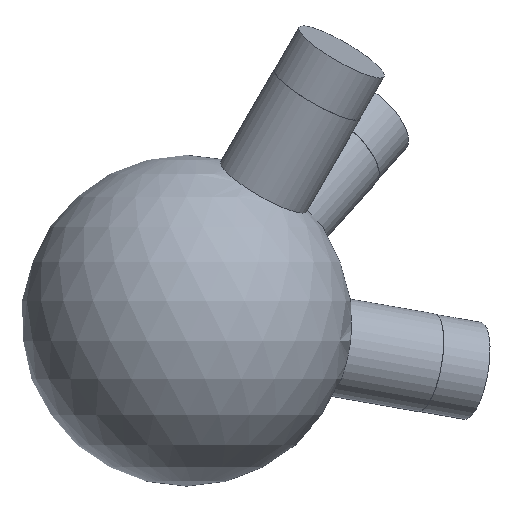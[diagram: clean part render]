
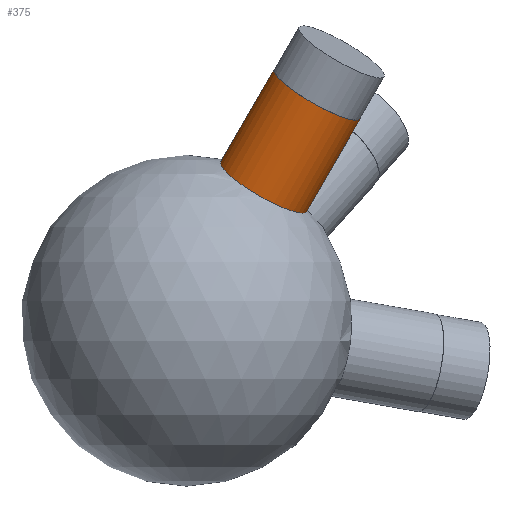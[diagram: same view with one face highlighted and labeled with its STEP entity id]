
A CAD part, left-side view. The second image highlights one B-rep face of the part: STEP entity #375.
In plain terms, the highlighted cylindrical face has radius 6 mm (diameter 12 mm), a full revolution.
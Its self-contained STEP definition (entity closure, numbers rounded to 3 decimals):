
#35 = SPHERICAL_SURFACE('',#36,20.);
#36 = AXIS2_PLACEMENT_3D('',#37,#38,#39);
#37 = CARTESIAN_POINT('',(0.,0.,0.));
#38 = DIRECTION('',(0.,0.,1.));
#39 = DIRECTION('',(1.,0.,-0.));
#116 = EDGE_CURVE('',#117,#117,#119,.T.);
#117 = VERTEX_POINT('',#118);
#118 = CARTESIAN_POINT('',(-3.858,-4.149,
    19.181));
#119 = SURFACE_CURVE('',#120,(#125,#215),.PCURVE_S1.);
#120 = CIRCLE('',#121,6.);
#121 = AXIS2_PLACEMENT_3D('',#122,#123,#124);
#122 = CARTESIAN_POINT('',(-3.858,-9.344,
    16.18));
#123 = DIRECTION('',(-0.202,-0.49,0.848));
#124 = DIRECTION('',(0.,-0.866,-0.5)
  );
#125 = PCURVE('',#35,#126);
#126 = DEFINITIONAL_REPRESENTATION('',(#127),#214);
#127 = B_SPLINE_CURVE_WITH_KNOTS('',8,(#128,#129,#130,#131,#132,#133,
    #134,#135,#136,#137,#138,#139,#140,#141,#142,#143,#144,#145,#146,
    #147,#148,#149,#150,#151,#152,#153,#154,#155,#156,#157,#158,#159,
    #160,#161,#162,#163,#164,#165,#166,#167,#168,#169,#170,#171,#172,
    #173,#174,#175,#176,#177,#178,#179,#180,#181,#182,#183,#184,#185,
    #186,#187,#188,#189,#190,#191,#192,#193,#194,#195,#196,#197,#198,
    #199,#200,#201,#202,#203,#204,#205,#206,#207,#208,#209,#210,#211,
    #212,#213),.UNSPECIFIED.,.F.,.F.,(9,7,7,7,7,7,7,7,7,7,7,7,9),(
    3.142,3.534,3.902,4.593,
    5.801,6.707,7.386,7.896,
    8.278,8.565,8.78,9.102,
    9.425),.UNSPECIFIED.);
#128 = CARTESIAN_POINT('',(3.963,1.284));
#129 = CARTESIAN_POINT('',(3.922,1.275));
#130 = CARTESIAN_POINT('',(3.886,1.264));
#131 = CARTESIAN_POINT('',(3.855,1.253));
#132 = CARTESIAN_POINT('',(3.827,1.241));
#133 = CARTESIAN_POINT('',(3.805,1.228));
#134 = CARTESIAN_POINT('',(3.785,1.215));
#135 = CARTESIAN_POINT('',(3.769,1.202));
#136 = CARTESIAN_POINT('',(3.744,1.175));
#137 = CARTESIAN_POINT('',(3.735,1.161));
#138 = CARTESIAN_POINT('',(3.728,1.148));
#139 = CARTESIAN_POINT('',(3.723,1.134));
#140 = CARTESIAN_POINT('',(3.72,1.12));
#141 = CARTESIAN_POINT('',(3.718,1.107));
#142 = CARTESIAN_POINT('',(3.718,1.093));
#143 = CARTESIAN_POINT('',(3.723,1.053));
#144 = CARTESIAN_POINT('',(3.73,1.027));
#145 = CARTESIAN_POINT('',(3.742,1.002));
#146 = CARTESIAN_POINT('',(3.757,0.977));
#147 = CARTESIAN_POINT('',(3.774,0.953));
#148 = CARTESIAN_POINT('',(3.794,0.93));
#149 = CARTESIAN_POINT('',(3.816,0.908));
#150 = CARTESIAN_POINT('',(3.88,0.849));
#151 = CARTESIAN_POINT('',(3.927,0.816));
#152 = CARTESIAN_POINT('',(3.977,0.786));
#153 = CARTESIAN_POINT('',(4.031,0.76));
#154 = CARTESIAN_POINT('',(4.087,0.74));
#155 = CARTESIAN_POINT('',(4.145,0.724));
#156 = CARTESIAN_POINT('',(4.204,0.714));
#157 = CARTESIAN_POINT('',(4.308,0.706));
#158 = CARTESIAN_POINT('',(4.353,0.706));
#159 = CARTESIAN_POINT('',(4.398,0.709));
#160 = CARTESIAN_POINT('',(4.442,0.714));
#161 = CARTESIAN_POINT('',(4.486,0.723));
#162 = CARTESIAN_POINT('',(4.529,0.735));
#163 = CARTESIAN_POINT('',(4.571,0.75));
#164 = CARTESIAN_POINT('',(4.643,0.78));
#165 = CARTESIAN_POINT('',(4.672,0.794));
#166 = CARTESIAN_POINT('',(4.701,0.81));
#167 = CARTESIAN_POINT('',(4.729,0.827));
#168 = CARTESIAN_POINT('',(4.755,0.846));
#169 = CARTESIAN_POINT('',(4.78,0.865));
#170 = CARTESIAN_POINT('',(4.804,0.886));
#171 = CARTESIAN_POINT('',(4.842,0.924));
#172 = CARTESIAN_POINT('',(4.857,0.941));
#173 = CARTESIAN_POINT('',(4.871,0.959));
#174 = CARTESIAN_POINT('',(4.883,0.976));
#175 = CARTESIAN_POINT('',(4.894,0.995));
#176 = CARTESIAN_POINT('',(4.904,1.013));
#177 = CARTESIAN_POINT('',(4.911,1.032));
#178 = CARTESIAN_POINT('',(4.92,1.065));
#179 = CARTESIAN_POINT('',(4.923,1.079));
#180 = CARTESIAN_POINT('',(4.924,1.094));
#181 = CARTESIAN_POINT('',(4.924,1.108));
#182 = CARTESIAN_POINT('',(4.922,1.122));
#183 = CARTESIAN_POINT('',(4.918,1.137));
#184 = CARTESIAN_POINT('',(4.912,1.151));
#185 = CARTESIAN_POINT('',(4.897,1.175));
#186 = CARTESIAN_POINT('',(4.889,1.185));
#187 = CARTESIAN_POINT('',(4.879,1.196));
#188 = CARTESIAN_POINT('',(4.868,1.206));
#189 = CARTESIAN_POINT('',(4.856,1.215));
#190 = CARTESIAN_POINT('',(4.841,1.225));
#191 = CARTESIAN_POINT('',(4.824,1.234));
#192 = CARTESIAN_POINT('',(4.791,1.249));
#193 = CARTESIAN_POINT('',(4.775,1.256));
#194 = CARTESIAN_POINT('',(4.758,1.262));
#195 = CARTESIAN_POINT('',(4.74,1.268));
#196 = CARTESIAN_POINT('',(4.721,1.274));
#197 = CARTESIAN_POINT('',(4.7,1.279));
#198 = CARTESIAN_POINT('',(4.678,1.284));
#199 = CARTESIAN_POINT('',(4.619,1.296));
#200 = CARTESIAN_POINT('',(4.58,1.302));
#201 = CARTESIAN_POINT('',(4.539,1.307));
#202 = CARTESIAN_POINT('',(4.494,1.311));
#203 = CARTESIAN_POINT('',(4.448,1.315));
#204 = CARTESIAN_POINT('',(4.4,1.317));
#205 = CARTESIAN_POINT('',(4.352,1.317));
#206 = CARTESIAN_POINT('',(4.256,1.317));
#207 = CARTESIAN_POINT('',(4.208,1.315));
#208 = CARTESIAN_POINT('',(4.161,1.312));
#209 = CARTESIAN_POINT('',(4.116,1.309));
#210 = CARTESIAN_POINT('',(4.073,1.304));
#211 = CARTESIAN_POINT('',(4.034,1.298));
#212 = CARTESIAN_POINT('',(3.997,1.291));
#213 = CARTESIAN_POINT('',(3.963,1.284));
#214 = ( GEOMETRIC_REPRESENTATION_CONTEXT(2) 
PARAMETRIC_REPRESENTATION_CONTEXT() REPRESENTATION_CONTEXT('2D SPACE',''
  ) );
#215 = PCURVE('',#216,#221);
#216 = CYLINDRICAL_SURFACE('',#217,6.);
#217 = AXIS2_PLACEMENT_3D('',#218,#219,#220);
#218 = CARTESIAN_POINT('',(0.,0.,0.));
#219 = DIRECTION('',(-0.202,-0.49,0.848));
#220 = DIRECTION('',(0.,0.866,0.5));
#221 = DEFINITIONAL_REPRESENTATION('',(#222),#226);
#222 = LINE('',#223,#224);
#223 = CARTESIAN_POINT('',(-3.142,19.079));
#224 = VECTOR('',#225,1.);
#225 = DIRECTION('',(1.,0.));
#226 = ( GEOMETRIC_REPRESENTATION_CONTEXT(2) 
PARAMETRIC_REPRESENTATION_CONTEXT() REPRESENTATION_CONTEXT('2D SPACE',''
  ) );
#375 = ADVANCED_FACE('',(#376),#216,.T.);
#376 = FACE_BOUND('',#377,.T.);
#377 = EDGE_LOOP('',(#378,#401,#428,#429));
#378 = ORIENTED_EDGE('',*,*,#379,.T.);
#379 = EDGE_CURVE('',#117,#380,#382,.T.);
#380 = VERTEX_POINT('',#381);
#381 = CARTESIAN_POINT('',(-6.529,-10.62,
    30.386));
#382 = SEAM_CURVE('',#383,(#387,#394),.PCURVE_S1.);
#383 = LINE('',#384,#385);
#384 = CARTESIAN_POINT('',(0.,5.196,
    3.001));
#385 = VECTOR('',#386,1.);
#386 = DIRECTION('',(-0.202,-0.49,0.848));
#387 = PCURVE('',#216,#388);
#388 = DEFINITIONAL_REPRESENTATION('',(#389),#393);
#389 = LINE('',#390,#391);
#390 = CARTESIAN_POINT('',(6.283,-0.));
#391 = VECTOR('',#392,1.);
#392 = DIRECTION('',(0.,1.));
#393 = ( GEOMETRIC_REPRESENTATION_CONTEXT(2) 
PARAMETRIC_REPRESENTATION_CONTEXT() REPRESENTATION_CONTEXT('2D SPACE',''
  ) );
#394 = PCURVE('',#216,#395);
#395 = DEFINITIONAL_REPRESENTATION('',(#396),#400);
#396 = LINE('',#397,#398);
#397 = CARTESIAN_POINT('',(0.,-0.));
#398 = VECTOR('',#399,1.);
#399 = DIRECTION('',(0.,1.));
#400 = ( GEOMETRIC_REPRESENTATION_CONTEXT(2) 
PARAMETRIC_REPRESENTATION_CONTEXT() REPRESENTATION_CONTEXT('2D SPACE',''
  ) );
#401 = ORIENTED_EDGE('',*,*,#402,.F.);
#402 = EDGE_CURVE('',#380,#380,#403,.T.);
#403 = SURFACE_CURVE('',#404,(#409,#416),.PCURVE_S1.);
#404 = CIRCLE('',#405,6.);
#405 = AXIS2_PLACEMENT_3D('',#406,#407,#408);
#406 = CARTESIAN_POINT('',(-6.529,-15.815,
    27.385));
#407 = DIRECTION('',(-0.202,-0.49,0.848));
#408 = DIRECTION('',(0.,0.866,0.5));
#409 = PCURVE('',#216,#410);
#410 = DEFINITIONAL_REPRESENTATION('',(#411),#415);
#411 = LINE('',#412,#413);
#412 = CARTESIAN_POINT('',(0.,32.291));
#413 = VECTOR('',#414,1.);
#414 = DIRECTION('',(1.,0.));
#415 = ( GEOMETRIC_REPRESENTATION_CONTEXT(2) 
PARAMETRIC_REPRESENTATION_CONTEXT() REPRESENTATION_CONTEXT('2D SPACE',''
  ) );
#416 = PCURVE('',#417,#422);
#417 = PLANE('',#418);
#418 = AXIS2_PLACEMENT_3D('',#419,#420,#421);
#419 = CARTESIAN_POINT('',(-6.529,-15.815,
    27.385));
#420 = DIRECTION('',(-0.202,-0.49,0.848));
#421 = DIRECTION('',(0.,0.866,0.5));
#422 = DEFINITIONAL_REPRESENTATION('',(#423),#427);
#423 = CIRCLE('',#424,6.);
#424 = AXIS2_PLACEMENT_2D('',#425,#426);
#425 = CARTESIAN_POINT('',(0.,0.));
#426 = DIRECTION('',(1.,0.));
#427 = ( GEOMETRIC_REPRESENTATION_CONTEXT(2) 
PARAMETRIC_REPRESENTATION_CONTEXT() REPRESENTATION_CONTEXT('2D SPACE',''
  ) );
#428 = ORIENTED_EDGE('',*,*,#379,.F.);
#429 = ORIENTED_EDGE('',*,*,#116,.T.);
